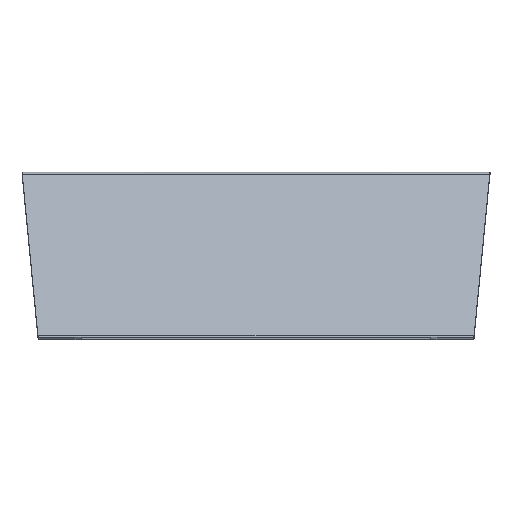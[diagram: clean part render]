
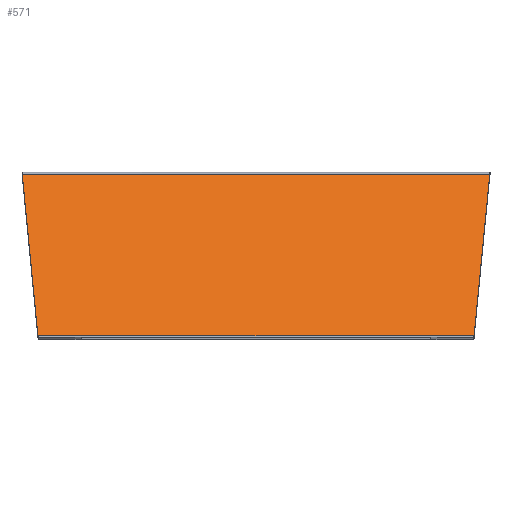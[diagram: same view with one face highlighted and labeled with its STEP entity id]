
A CAD part, top view. The second image highlights one B-rep face of the part: STEP entity #571.
In plain terms, the highlighted planar face has unit normal (0, 0.501, 0.866).
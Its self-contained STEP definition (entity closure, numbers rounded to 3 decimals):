
#16 = LINE ( 'NONE', #172, #755 ) ;
#35 = ORIENTED_EDGE ( 'NONE', *, *, #637, .T. ) ;
#44 = VECTOR ( 'NONE', #293, 1000. ) ;
#74 = LINE ( 'NONE', #705, #44 ) ;
#108 = EDGE_LOOP ( 'NONE', ( #615, #35, #357, #643 ) ) ;
#172 = CARTESIAN_POINT ( 'NONE',  ( -181.719, -25.628, -200.862 ) ) ;
#195 = VECTOR ( 'NONE', #774, 1000. ) ;
#205 = FACE_OUTER_BOUND ( 'NONE', #108, .T. ) ;
#230 = DIRECTION ( 'NONE',  ( -0.084, 0.863, -0.499 ) ) ;
#258 = DIRECTION ( 'NONE',  ( -1., 0., 0. ) ) ;
#263 = VERTEX_POINT ( 'NONE', #660 ) ;
#285 = CARTESIAN_POINT ( 'NONE',  ( 197.777, 139.707, -296.52 ) ) ;
#293 = DIRECTION ( 'NONE',  ( 1., 0., 0. ) ) ;
#351 = CARTESIAN_POINT ( 'NONE',  ( 198., 2.003, -216.848 ) ) ;
#357 = ORIENTED_EDGE ( 'NONE', *, *, #583, .F. ) ;
#383 = CARTESIAN_POINT ( 'NONE',  ( 198., 139.707, -296.52 ) ) ;
#390 = LINE ( 'NONE', #383, #557 ) ;
#409 = DIRECTION ( 'NONE',  ( 0., 0.866, -0.501 ) ) ;
#459 = VERTEX_POINT ( 'NONE', #285 ) ;
#469 = CARTESIAN_POINT ( 'NONE',  ( 184.528, 3.298, -217.598 ) ) ;
#506 = AXIS2_PLACEMENT_3D ( 'NONE', #351, #778, #409 ) ;
#513 = LINE ( 'NONE', #566, #195 ) ;
#557 = VECTOR ( 'NONE', #258, 1000. ) ;
#561 = VERTEX_POINT ( 'NONE', #469 ) ;
#565 = CARTESIAN_POINT ( 'NONE',  ( -184.528, 3.298, -217.598 ) ) ;
#566 = CARTESIAN_POINT ( 'NONE',  ( 184.498, 2.986, -217.417 ) ) ;
#571 = ADVANCED_FACE ( 'NONE', ( #205 ), #708, .F. ) ;
#583 = EDGE_CURVE ( 'NONE', #658, #263, #16, .T. ) ;
#615 = ORIENTED_EDGE ( 'NONE', *, *, #700, .F. ) ;
#637 = EDGE_CURVE ( 'NONE', #459, #263, #390, .T. ) ;
#643 = ORIENTED_EDGE ( 'NONE', *, *, #695, .T. ) ;
#658 = VERTEX_POINT ( 'NONE', #565 ) ;
#660 = CARTESIAN_POINT ( 'NONE',  ( -197.777, 139.707, -296.52 ) ) ;
#695 = EDGE_CURVE ( 'NONE', #658, #561, #74, .T. ) ;
#700 = EDGE_CURVE ( 'NONE', #459, #561, #513, .T. ) ;
#705 = CARTESIAN_POINT ( 'NONE',  ( 184.403, 3.298, -217.598 ) ) ;
#708 = PLANE ( 'NONE',  #506 ) ;
#755 = VECTOR ( 'NONE', #230, 1000. ) ;
#774 = DIRECTION ( 'NONE',  ( -0.084, -0.863, 0.499 ) ) ;
#778 = DIRECTION ( 'NONE',  ( 0., -0.501, -0.866 ) ) ;
